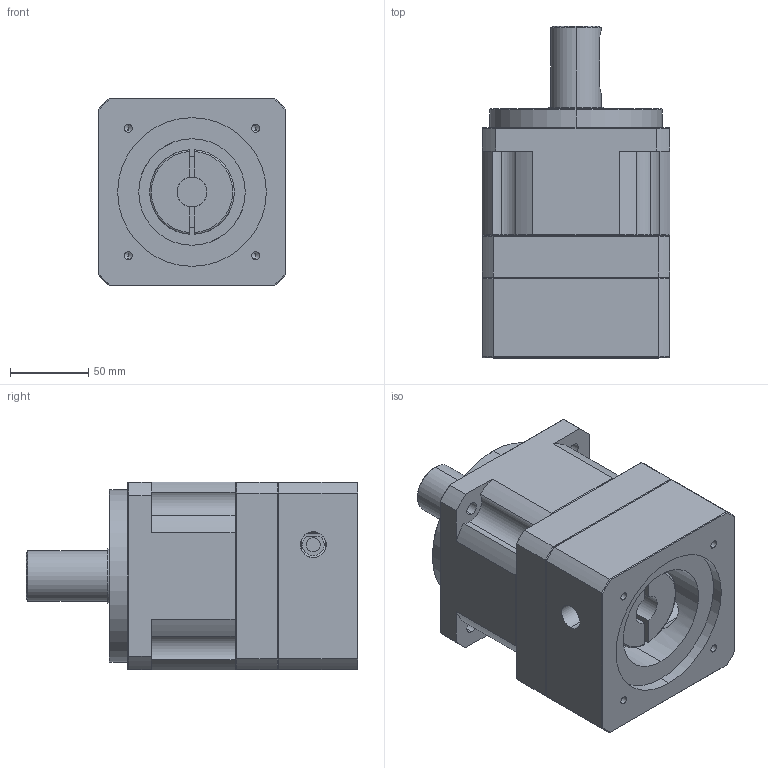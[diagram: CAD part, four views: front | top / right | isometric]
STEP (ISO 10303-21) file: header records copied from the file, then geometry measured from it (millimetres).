
FILE_DESCRIPTION (( 'STEP AP203' ), '1' );
FILE_NAME ('MF120H-L1£r95PCD£r115M6.STEP', '2014-04-21T05:34:54', ( 'KELLY' ), ( '' ), 'SwSTEP 2.0', 'SolidWorks 2012', '' );
FILE_SCHEMA (( 'CONFIG_CONTROL_DESIGN' ));
Length unit declared in the file: millimetre
Products named in the file (1): MF120H-L1｣r95PCD｣r115M6
Bounding box: 120 x 212 x 120 mm (x, y, z)
Volume: 1926616.5 mm3; surface area: 165969 mm2
Topology: 2 solids, 2 shells, 193 faces, 460 edges, 275 vertices
Faces by surface type: cylinder 76, plane 65, cone 48, torus 4
Entity records: 6123 total; most frequent: CARTESIAN_POINT 1613, DIRECTION 948, ORIENTED_EDGE 900, EDGE_CURVE 450, AXIS2_PLACEMENT_3D 380, VERTEX_POINT 275, EDGE_LOOP 225, ADVANCED_FACE 193
